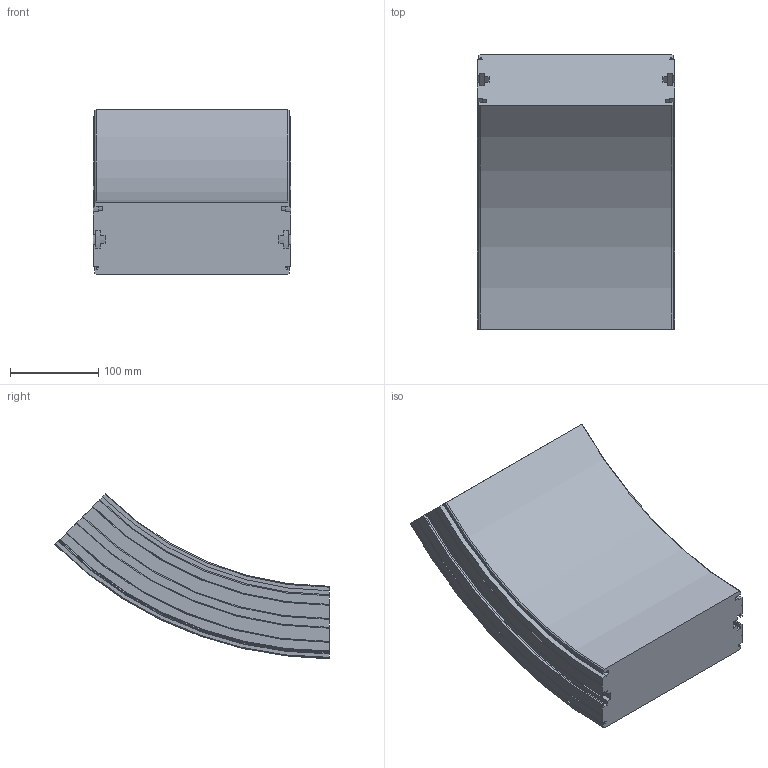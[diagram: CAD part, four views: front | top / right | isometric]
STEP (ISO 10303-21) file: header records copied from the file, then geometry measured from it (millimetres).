
FILE_DESCRIPTION(/* description */ ('VERTIKALKURVA S220 R400'),/* implementation_level */ '2;1');
FILE_NAME(/* name */ '\\carryline.intra\privat\users\mathias\Desktop\Tillfälliga filer\220-5645+220-2000-NER-01.stp',/* time_stamp */ '2018-11-29T13:27:08+01:00',/* author */ ('MD'),/* organization */ ('CARRYLINE'),/* preprocessor_version */ 'ST-DEVELOPER v17',/* originating_system */ 'Autodesk Inventor 2018',/* authorisation */ '');
FILE_SCHEMA (('AUTOMOTIVE_DESIGN { 1 0 10303 214 3 1 1 }'));
Length unit declared in the file: millimetre
Products named in the file (1): 220-5645+220-2000-NER-01
Bounding box: 224 x 310.77 x 186.36 mm (x, y, z)
Volume: 5543549.8 mm3; surface area: 270946.9 mm2
Topology: 1 solids, 1 shells, 113 faces, 318 edges, 212 vertices
Faces by surface type: plane 48, cylinder 31, bspline 14, cone 14, torus 6
Entity records: 8355 total; most frequent: CARTESIAN_POINT 5387, ORIENTED_EDGE 636, DIRECTION 576, EDGE_CURVE 318, VERTEX_POINT 212, AXIS2_PLACEMENT_3D 199, LINE 178, VECTOR 178
